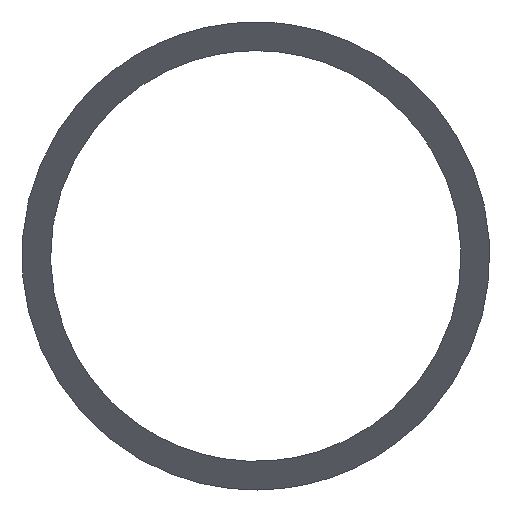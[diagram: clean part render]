
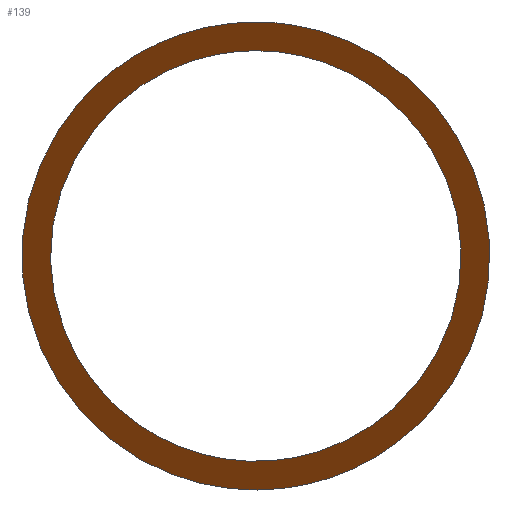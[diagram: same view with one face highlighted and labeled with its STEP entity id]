
A CAD part, left-side view. The second image highlights one B-rep face of the part: STEP entity #139.
In plain terms, the highlighted planar face has unit normal (-0.743, 0, -0.67).
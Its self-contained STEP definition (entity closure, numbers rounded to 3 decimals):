
#62=PLANE('',#131);
#66=ORIENTED_EDGE('',*,*,#80,.T.);
#67=ORIENTED_EDGE('',*,*,#82,.T.);
#72=ELLIPSE('',#129,28.547,21.2);
#74=ELLIPSE('',#132,25.046,18.6);
#76=VERTEX_POINT('',#117);
#78=VERTEX_POINT('',#122);
#80=EDGE_CURVE('',#76,#76,#72,.T.);
#82=EDGE_CURVE('',#78,#78,#74,.T.);
#86=EDGE_LOOP('',(#66));
#87=EDGE_LOOP('',(#67));
#94=FACE_BOUND('',#86,.T.);
#95=FACE_BOUND('',#87,.T.);
#102=DIRECTION('',(-0.743,0.,-0.67));
#103=DIRECTION('',(0.67,0.,-0.743));
#106=DIRECTION('',(-0.743,0.,-0.67));
#107=DIRECTION('',(0.,0.743,0.));
#108=DIRECTION('',(0.743,0.,0.67));
#109=DIRECTION('',(-0.67,0.,0.743));
#117=CARTESIAN_POINT('',(-458.995,0.,21.2));
#118=CARTESIAN_POINT('',(-439.877,0.,0.));
#121=CARTESIAN_POINT('',(-454.075,0.,15.744));
#122=CARTESIAN_POINT('',(-456.65,0.,18.6));
#123=CARTESIAN_POINT('',(-439.877,0.,0.));
#129=AXIS2_PLACEMENT_3D('',#118,#102,#103);
#131=AXIS2_PLACEMENT_3D('',#121,#106,#107);
#132=AXIS2_PLACEMENT_3D('',#123,#108,#109);
#139=ADVANCED_FACE('',(#94,#95),#62,.T.);
